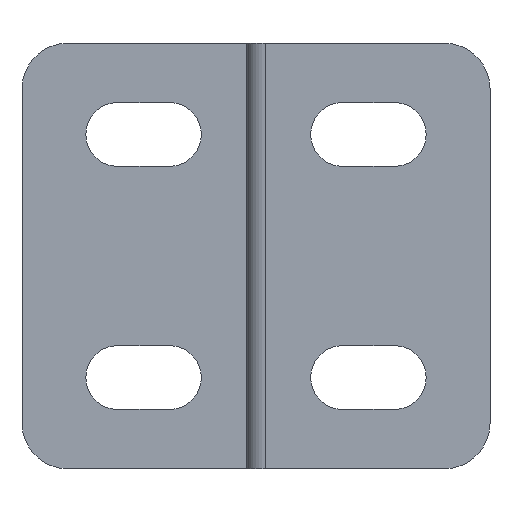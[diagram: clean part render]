
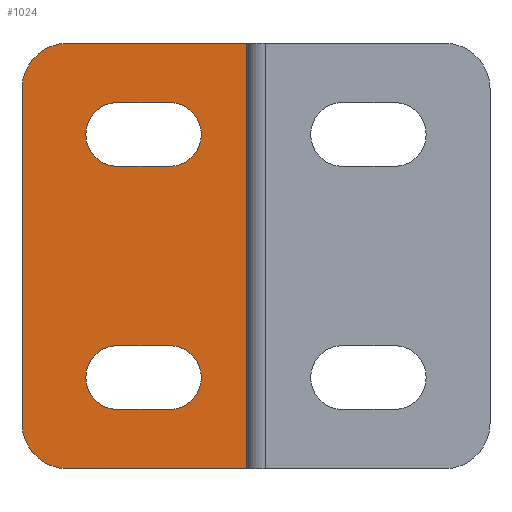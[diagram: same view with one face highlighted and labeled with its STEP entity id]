
A CAD part, front view. The second image highlights one B-rep face of the part: STEP entity #1024.
In plain terms, the highlighted planar face has unit normal (0, -1, 0).
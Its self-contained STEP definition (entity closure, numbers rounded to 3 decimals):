
#9 = CARTESIAN_POINT ( 'NONE',  ( -14.8, 11., 14. ) ) ;
#20 = EDGE_CURVE ( 'NONE', #1066, #580, #153, .T. ) ;
#26 = EDGE_CURVE ( 'NONE', #439, #199, #959, .T. ) ;
#28 = VECTOR ( 'NONE', #110, 1000. ) ;
#34 = VECTOR ( 'NONE', #743, 1000. ) ;
#105 = EDGE_CURVE ( 'NONE', #1106, #322, #1118, .T. ) ;
#108 = VERTEX_POINT ( 'NONE', #209 ) ;
#110 = DIRECTION ( 'NONE',  ( 1., 0., 0. ) ) ;
#121 = CARTESIAN_POINT ( 'NONE',  ( 0., 11., -14. ) ) ;
#136 = VECTOR ( 'NONE', #429, 1000. ) ;
#144 = FACE_BOUND ( 'NONE', #545, .T. ) ;
#151 = ORIENTED_EDGE ( 'NONE', *, *, #250, .T. ) ;
#153 = LINE ( 'NONE', #228, #136 ) ;
#159 = LINE ( 'NONE', #9, #190 ) ;
#190 = VECTOR ( 'NONE', #477, 1000. ) ;
#199 = VERTEX_POINT ( 'NONE', #400 ) ;
#209 = CARTESIAN_POINT ( 'NONE',  ( -8.5, 11., -5.9 ) ) ;
#217 = CARTESIAN_POINT ( 'NONE',  ( -14.8, 11., 14. ) ) ;
#228 = CARTESIAN_POINT ( 'NONE',  ( -14.8, 11., -10.1 ) ) ;
#230 = LINE ( 'NONE', #217, #28 ) ;
#248 = VERTEX_POINT ( 'NONE', #694 ) ;
#250 = EDGE_CURVE ( 'NONE', #290, #1066, #778, .T. ) ;
#258 = DIRECTION ( 'NONE',  ( 0., 0., 1. ) ) ;
#290 = VERTEX_POINT ( 'NONE', #760 ) ;
#293 = AXIS2_PLACEMENT_3D ( 'NONE', #1105, #644, #747 ) ;
#305 = DIRECTION ( 'NONE',  ( 0., 0., 1. ) ) ;
#306 = EDGE_CURVE ( 'NONE', #580, #108, #1031, .T. ) ;
#309 = DIRECTION ( 'NONE',  ( 1., 0., 0. ) ) ;
#312 = DIRECTION ( 'NONE',  ( 0., -1., 0. ) ) ;
#317 = CARTESIAN_POINT ( 'NONE',  ( -5.1, 11., 8. ) ) ;
#322 = VERTEX_POINT ( 'NONE', #746 ) ;
#324 = CARTESIAN_POINT ( 'NONE',  ( -14.8, 11., 5.9 ) ) ;
#340 = ORIENTED_EDGE ( 'NONE', *, *, #363, .T. ) ;
#345 = DIRECTION ( 'NONE',  ( 0., -1., 0. ) ) ;
#347 = DIRECTION ( 'NONE',  ( 1., 0., 0. ) ) ;
#360 = VECTOR ( 'NONE', #347, 1000. ) ;
#363 = EDGE_CURVE ( 'NONE', #322, #586, #1083, .T. ) ;
#367 = AXIS2_PLACEMENT_3D ( 'NONE', #565, #312, #484 ) ;
#400 = CARTESIAN_POINT ( 'NONE',  ( -11.8, 11., -14. ) ) ;
#408 = ORIENTED_EDGE ( 'NONE', *, *, #1132, .F. ) ;
#418 = VERTEX_POINT ( 'NONE', #121 ) ;
#423 = ORIENTED_EDGE ( 'NONE', *, *, #992, .T. ) ;
#428 = CARTESIAN_POINT ( 'NONE',  ( -14.8, 11., -5.9 ) ) ;
#429 = DIRECTION ( 'NONE',  ( -1., 0., 0. ) ) ;
#433 = ORIENTED_EDGE ( 'NONE', *, *, #434, .T. ) ;
#434 = EDGE_CURVE ( 'NONE', #586, #1064, #1101, .T. ) ;
#439 = VERTEX_POINT ( 'NONE', #482 ) ;
#460 = DIRECTION ( 'NONE',  ( 1., 0., 0. ) ) ;
#462 = AXIS2_PLACEMENT_3D ( 'NONE', #845, #851, #933 ) ;
#472 = AXIS2_PLACEMENT_3D ( 'NONE', #947, #951, #974 ) ;
#473 = ORIENTED_EDGE ( 'NONE', *, *, #755, .T. ) ;
#474 = ORIENTED_EDGE ( 'NONE', *, *, #306, .T. ) ;
#477 = DIRECTION ( 'NONE',  ( 0., 0., -1. ) ) ;
#480 = CARTESIAN_POINT ( 'NONE',  ( -11.8, 11., -11. ) ) ;
#482 = CARTESIAN_POINT ( 'NONE',  ( -14.8, 11., -11. ) ) ;
#484 = DIRECTION ( 'NONE',  ( 0., 0., 1. ) ) ;
#486 = DIRECTION ( 'NONE',  ( 0., 1., 0. ) ) ;
#488 = LINE ( 'NONE', #1030, #360 ) ;
#501 = ORIENTED_EDGE ( 'NONE', *, *, #1103, .T. ) ;
#518 = VERTEX_POINT ( 'NONE', #1049 ) ;
#524 = CARTESIAN_POINT ( 'NONE',  ( 0., 11., -14. ) ) ;
#545 = EDGE_LOOP ( 'NONE', ( #905, #474, #473, #151 ) ) ;
#562 = PLANE ( 'NONE',  #293 ) ;
#565 = CARTESIAN_POINT ( 'NONE',  ( -11.8, 11., 11. ) ) ;
#570 = AXIS2_PLACEMENT_3D ( 'NONE', #739, #734, #305 ) ;
#578 = ORIENTED_EDGE ( 'NONE', *, *, #105, .T. ) ;
#580 = VERTEX_POINT ( 'NONE', #846 ) ;
#586 = VERTEX_POINT ( 'NONE', #795 ) ;
#595 = ORIENTED_EDGE ( 'NONE', *, *, #824, .T. ) ;
#644 = DIRECTION ( 'NONE',  ( 0., 1., 0. ) ) ;
#660 = CARTESIAN_POINT ( 'NONE',  ( -8.5, 11., 5.9 ) ) ;
#681 = EDGE_LOOP ( 'NONE', ( #501, #423, #408, #1033, #1018, #889 ) ) ;
#694 = CARTESIAN_POINT ( 'NONE',  ( -11.8, 11., 14. ) ) ;
#734 = DIRECTION ( 'NONE',  ( 0., 1., 0. ) ) ;
#739 = CARTESIAN_POINT ( 'NONE',  ( -8.5, 11., -8. ) ) ;
#743 = DIRECTION ( 'NONE',  ( -1., 0., 0. ) ) ;
#746 = CARTESIAN_POINT ( 'NONE',  ( -5.1, 11., 10.1 ) ) ;
#747 = DIRECTION ( 'NONE',  ( 0., 0., 1. ) ) ;
#755 = EDGE_CURVE ( 'NONE', #108, #290, #1011, .T. ) ;
#760 = CARTESIAN_POINT ( 'NONE',  ( -5.1, 11., -5.9 ) ) ;
#778 = CIRCLE ( 'NONE', #462, 2.1 ) ;
#795 = CARTESIAN_POINT ( 'NONE',  ( -5.1, 11., 5.9 ) ) ;
#824 = EDGE_CURVE ( 'NONE', #1064, #1106, #985, .T. ) ;
#827 = CARTESIAN_POINT ( 'NONE',  ( 0., 11., 14. ) ) ;
#845 = CARTESIAN_POINT ( 'NONE',  ( -5.1, 11., -8. ) ) ;
#846 = CARTESIAN_POINT ( 'NONE',  ( -8.5, 11., -10.1 ) ) ;
#848 = FACE_BOUND ( 'NONE', #876, .T. ) ;
#849 = LINE ( 'NONE', #524, #885 ) ;
#851 = DIRECTION ( 'NONE',  ( 0., 1., 0. ) ) ;
#868 = CIRCLE ( 'NONE', #367, 3. ) ;
#871 = EDGE_CURVE ( 'NONE', #248, #518, #868, .T. ) ;
#876 = EDGE_LOOP ( 'NONE', ( #433, #595, #578, #340 ) ) ;
#885 = VECTOR ( 'NONE', #963, 1000. ) ;
#889 = ORIENTED_EDGE ( 'NONE', *, *, #26, .T. ) ;
#890 = VECTOR ( 'NONE', #309, 1000. ) ;
#905 = ORIENTED_EDGE ( 'NONE', *, *, #20, .T. ) ;
#930 = AXIS2_PLACEMENT_3D ( 'NONE', #317, #486, #1114 ) ;
#933 = DIRECTION ( 'NONE',  ( 0., 0., 1. ) ) ;
#934 = VECTOR ( 'NONE', #460, 1000. ) ;
#936 = CARTESIAN_POINT ( 'NONE',  ( -8.5, 11., 10.1 ) ) ;
#947 = CARTESIAN_POINT ( 'NONE',  ( -8.5, 11., 8. ) ) ;
#951 = DIRECTION ( 'NONE',  ( 0., 1., 0. ) ) ;
#956 = AXIS2_PLACEMENT_3D ( 'NONE', #480, #345, #258 ) ;
#959 = CIRCLE ( 'NONE', #956, 3. ) ;
#963 = DIRECTION ( 'NONE',  ( 0., 0., 1. ) ) ;
#968 = FACE_OUTER_BOUND ( 'NONE', #681, .T. ) ;
#974 = DIRECTION ( 'NONE',  ( 0., 0., 1. ) ) ;
#982 = CARTESIAN_POINT ( 'NONE',  ( -14.8, 11., 10.1 ) ) ;
#985 = CIRCLE ( 'NONE', #472, 2.1 ) ;
#992 = EDGE_CURVE ( 'NONE', #418, #1036, #849, .T. ) ;
#1011 = LINE ( 'NONE', #428, #934 ) ;
#1013 = EDGE_CURVE ( 'NONE', #518, #439, #159, .T. ) ;
#1018 = ORIENTED_EDGE ( 'NONE', *, *, #1013, .T. ) ;
#1024 = ADVANCED_FACE ( 'NONE', ( #144, #968, #848 ), #562, .F. ) ;
#1030 = CARTESIAN_POINT ( 'NONE',  ( -14.8, 11., -14. ) ) ;
#1031 = CIRCLE ( 'NONE', #570, 2.1 ) ;
#1033 = ORIENTED_EDGE ( 'NONE', *, *, #871, .T. ) ;
#1036 = VERTEX_POINT ( 'NONE', #827 ) ;
#1049 = CARTESIAN_POINT ( 'NONE',  ( -14.8, 11., 11. ) ) ;
#1064 = VERTEX_POINT ( 'NONE', #660 ) ;
#1066 = VERTEX_POINT ( 'NONE', #1115 ) ;
#1083 = CIRCLE ( 'NONE', #930, 2.1 ) ;
#1101 = LINE ( 'NONE', #324, #34 ) ;
#1103 = EDGE_CURVE ( 'NONE', #199, #418, #488, .T. ) ;
#1105 = CARTESIAN_POINT ( 'NONE',  ( -14.8, 11., 14. ) ) ;
#1106 = VERTEX_POINT ( 'NONE', #936 ) ;
#1114 = DIRECTION ( 'NONE',  ( 0., 0., 1. ) ) ;
#1115 = CARTESIAN_POINT ( 'NONE',  ( -5.1, 11., -10.1 ) ) ;
#1118 = LINE ( 'NONE', #982, #890 ) ;
#1132 = EDGE_CURVE ( 'NONE', #248, #1036, #230, .T. ) ;
